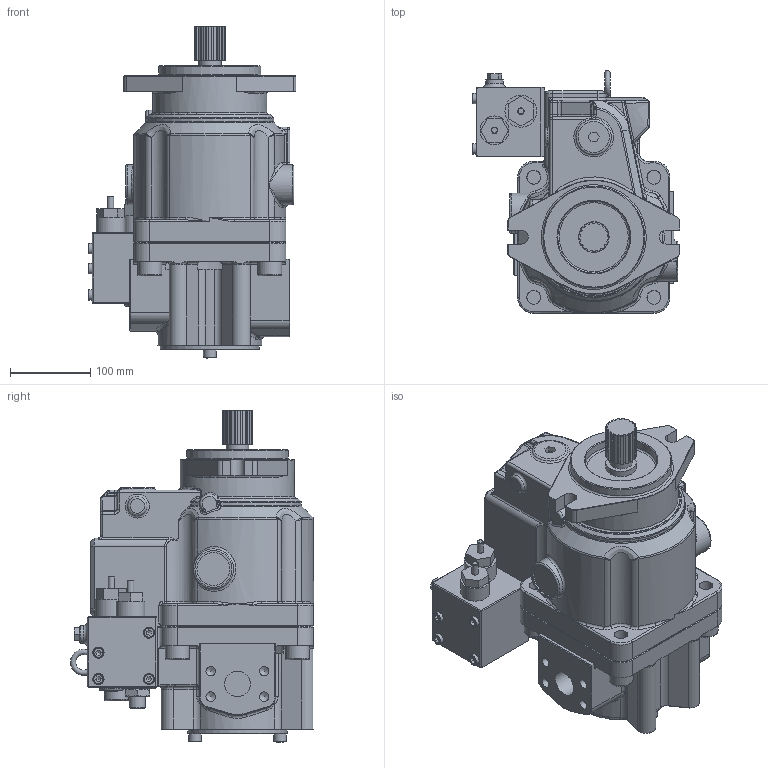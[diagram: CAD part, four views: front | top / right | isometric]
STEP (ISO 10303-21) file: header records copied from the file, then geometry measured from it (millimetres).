
FILE_DESCRIPTION((''),'2;1');
FILE_NAME('I:\3D Step files\Approved for WEB\K3V\K3VL112B 1NRWM L0.stp','2011-12-22T11:33:43',('mnorman'),(''),'Autodesk Inventor 2012','Autodesk Inventor 2012','');
FILE_SCHEMA(('AUTOMOTIVE_DESIGN { 1 0 10303 214 1 1 1 1 }'));
Length unit declared in the file: millimetre
Products named in the file (1): Part20
Bounding box: 259.5 x 303.47 x 414.42 mm (x, y, z)
Volume: 12711844.4 mm3; surface area: 702400.7 mm2
Topology: 20 solids, 20 shells, 1143 faces, 2709 edges, 1616 vertices
Faces by surface type: plane 438, cylinder 306, bspline 155, cone 128, torus 95, sphere 21
Full cylindrical faces by diameter (mm): 4.917 x4, 6.647 x4, 8 x7, 9 x4, 10 x2, 10.106 x8, 11 x2, 11.835 x4, 13 x4, 14 x4, 16 x4, 17.294 x5, 19.177 x1, 20 x6, 22 x5, 28 x1, 30 x5, 32 x6, 36 x1, 38.1 x1, 40 x1, 41 x2, 44 x1, 47 x1, 50 x1, 64 x1, 75 x1, 82.55 x1, 90 x2, 124 x1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
Entity records: 39822 total; most frequent: CARTESIAN_POINT 14212, DIRECTION 4967, ORIENTED_EDGE 4898, EDGE_CURVE 2449, AXIS2_PLACEMENT_3D 1945, VERTEX_POINT 1556, EDGE_LOOP 1377, STYLED_ITEM 1157
